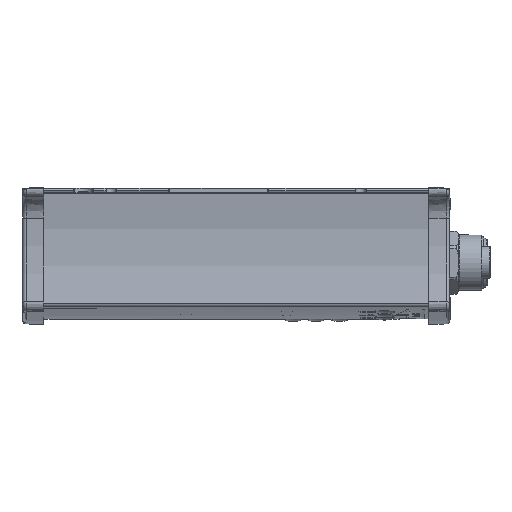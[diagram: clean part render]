
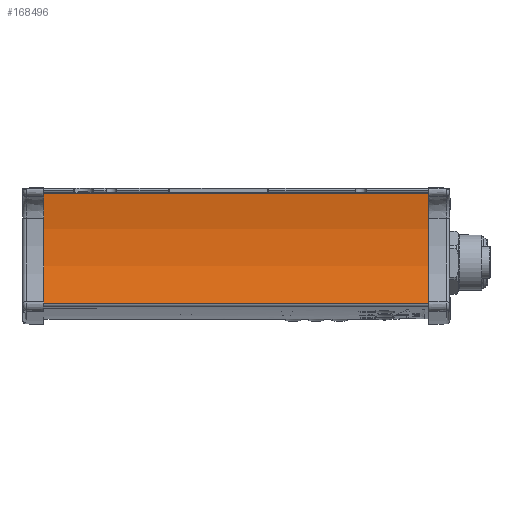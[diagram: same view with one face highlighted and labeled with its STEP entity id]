
A CAD part, left-side view. The second image highlights one B-rep face of the part: STEP entity #168496.
In plain terms, the highlighted cylindrical face has radius 109.9 mm (diameter 219.8 mm), a partial arc.
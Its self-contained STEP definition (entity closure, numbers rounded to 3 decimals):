
#1977 = VERTEX_POINT ( 'NONE', #39695 ) ;
#3202 = AXIS2_PLACEMENT_3D ( 'NONE', #93470, #134265, #171695 ) ;
#10137 = DIRECTION ( 'NONE',  ( 0., 1., 0. ) ) ;
#14644 = LINE ( 'NONE', #119077, #59800 ) ;
#19303 = ORIENTED_EDGE ( 'NONE', *, *, #27755, .T. ) ;
#26991 = LINE ( 'NONE', #80194, #38645 ) ;
#27755 = EDGE_CURVE ( 'NONE', #1977, #169850, #124716, .T. ) ;
#30119 = DIRECTION ( 'NONE',  ( 0., 1., 0. ) ) ;
#38645 = VECTOR ( 'NONE', #125320, 1000. ) ;
#39695 = CARTESIAN_POINT ( 'NONE',  ( -79.662, -1., -1.548 ) ) ;
#47288 = CARTESIAN_POINT ( 'NONE',  ( -81.929, -175., -49.24 ) ) ;
#57577 = ORIENTED_EDGE ( 'NONE', *, *, #58090, .T. ) ;
#58090 = EDGE_CURVE ( 'NONE', #111472, #1977, #14644, .T. ) ;
#59201 = CARTESIAN_POINT ( 'NONE',  ( -79.662, -175., -1.548 ) ) ;
#59800 = VECTOR ( 'NONE', #79910, 1000. ) ;
#60573 = DIRECTION ( 'NONE',  ( 0., 0., -1. ) ) ;
#70394 = EDGE_LOOP ( 'NONE', ( #19303, #147419, #115142, #57577 ) ) ;
#79910 = DIRECTION ( 'NONE',  ( 0., 1., 0. ) ) ;
#80194 = CARTESIAN_POINT ( 'NONE',  ( -81.929, -175., -49.24 ) ) ;
#83280 = CARTESIAN_POINT ( 'NONE',  ( -187.95, -1., -20.3 ) ) ;
#91749 = VERTEX_POINT ( 'NONE', #47288 ) ;
#93470 = CARTESIAN_POINT ( 'NONE',  ( -187.95, -175., -20.3 ) ) ;
#96622 = AXIS2_PLACEMENT_3D ( 'NONE', #126716, #10137, #60573 ) ;
#107671 = EDGE_CURVE ( 'NONE', #91749, #169850, #26991, .T. ) ;
#109912 = CARTESIAN_POINT ( 'NONE',  ( -81.929, -1., -49.24 ) ) ;
#110365 = EDGE_CURVE ( 'NONE', #111472, #91749, #153191, .T. ) ;
#111472 = VERTEX_POINT ( 'NONE', #59201 ) ;
#112904 = FACE_OUTER_BOUND ( 'NONE', #70394, .T. ) ;
#115142 = ORIENTED_EDGE ( 'NONE', *, *, #110365, .F. ) ;
#116318 = CYLINDRICAL_SURFACE ( 'NONE', #96622, 109.9 ) ;
#119077 = CARTESIAN_POINT ( 'NONE',  ( -79.662, -175., -1.548 ) ) ;
#124716 = CIRCLE ( 'NONE', #163655, 109.9 ) ;
#125320 = DIRECTION ( 'NONE',  ( 0., 1., 0. ) ) ;
#126716 = CARTESIAN_POINT ( 'NONE',  ( -187.95, -175., -20.3 ) ) ;
#134265 = DIRECTION ( 'NONE',  ( 0., 1., 0. ) ) ;
#147419 = ORIENTED_EDGE ( 'NONE', *, *, #107671, .F. ) ;
#147654 = DIRECTION ( 'NONE',  ( 0., 0., 1. ) ) ;
#153191 = CIRCLE ( 'NONE', #3202, 109.9 ) ;
#163655 = AXIS2_PLACEMENT_3D ( 'NONE', #83280, #30119, #147654 ) ;
#168496 = ADVANCED_FACE ( 'NONE', ( #112904 ), #116318, .F. ) ;
#169850 = VERTEX_POINT ( 'NONE', #109912 ) ;
#171695 = DIRECTION ( 'NONE',  ( 0., 0., 1. ) ) ;
